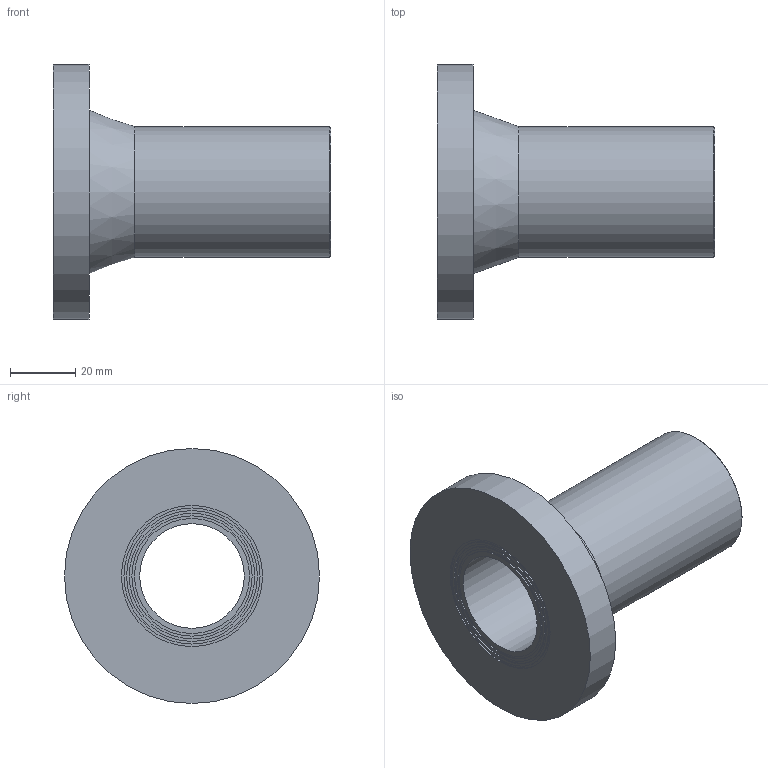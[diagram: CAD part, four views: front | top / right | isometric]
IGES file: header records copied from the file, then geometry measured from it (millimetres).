
Global section: file name: 490207040.ipt; native system: Autodesk Inventor 2015; preprocessor: unknown; author: Кирилл,,11,0; organization: 20170718.095537; date: 20190331.185813; units: millimetre
Bounding box: 85 x 78 x 78 mm (x, y, z)
Volume: 81828.6 mm3; surface area: 28389.4 mm2
Topology: 1 solids, 1 shells, 20 faces, 33 edges, 22 vertices
Faces by surface type: plane 9, cylinder 5, revolution 4, cone 2
Full cylindrical faces by diameter (mm): 35.2 x1, 38.4 x1, 40 x1, 41.6 x1, 78 x1
